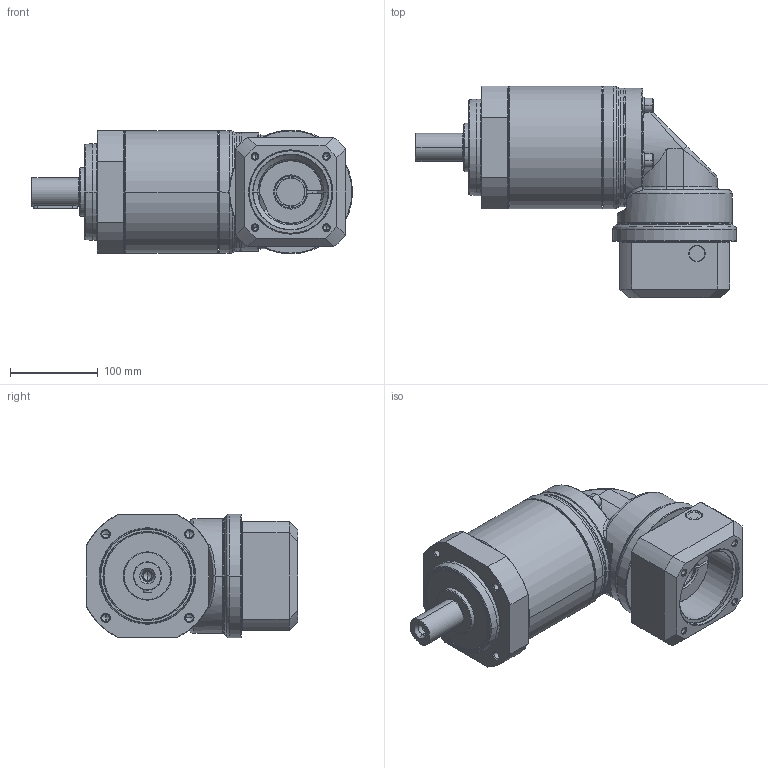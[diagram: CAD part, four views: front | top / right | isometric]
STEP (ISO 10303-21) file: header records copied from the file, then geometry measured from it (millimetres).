
FILE_DESCRIPTION((''),'2;1');
FILE_NAME('PS2R-E_2ST_32-P0411700101_ASM','2016-06-01T',('d01943'),(''),'PRO/ENGINEER BY PARAMETRIC TECHNOLOGY CORPORATION, 2008410','PRO/ENGINEER BY PARAMETRIC TECHNOLOGY CORPORATION, 2008410','');
FILE_SCHEMA(('CONFIG_CONTROL_DESIGN'));
Length unit declared in the file: millimetre
Products named in the file (12): P1328510001; P0251500001; P0350501401; P1349500001; P1017500001; P0713503001; P0503700010; P1350500301; P0411700101; P1702600001; 2111BA10040; PS2R-E_2ST_32-P0411700101_ASM
Assembly tree (14 placements, depth 2):
  PS2R-E_2ST_32-P0411700101_ASM
    P1328510001
    P0251500001
    P0350501401
    P1349500001
    P1017500001
    P0713503001
    P0503700010
    P1350500301
    P0411700101
    P1702600001
    2111BA10040  x4
Bounding box: 366 x 241.5 x 141 mm (x, y, z)
Volume: 3143029.2 mm3; surface area: 517546.1 mm2
Topology: 14 solids, 14 shells, 726 faces, 1603 edges, 923 vertices
Faces by surface type: cylinder 216, cone 212, plane 166, torus 98, bspline 34
Entity records: 23283 total; most frequent: CARTESIAN_POINT 9296, DIRECTION 3080, ORIENTED_EDGE 2718, EDGE_CURVE 1359, AXIS2_PLACEMENT_3D 1294, VERTEX_POINT 803, EDGE_LOOP 702, CIRCLE 675
